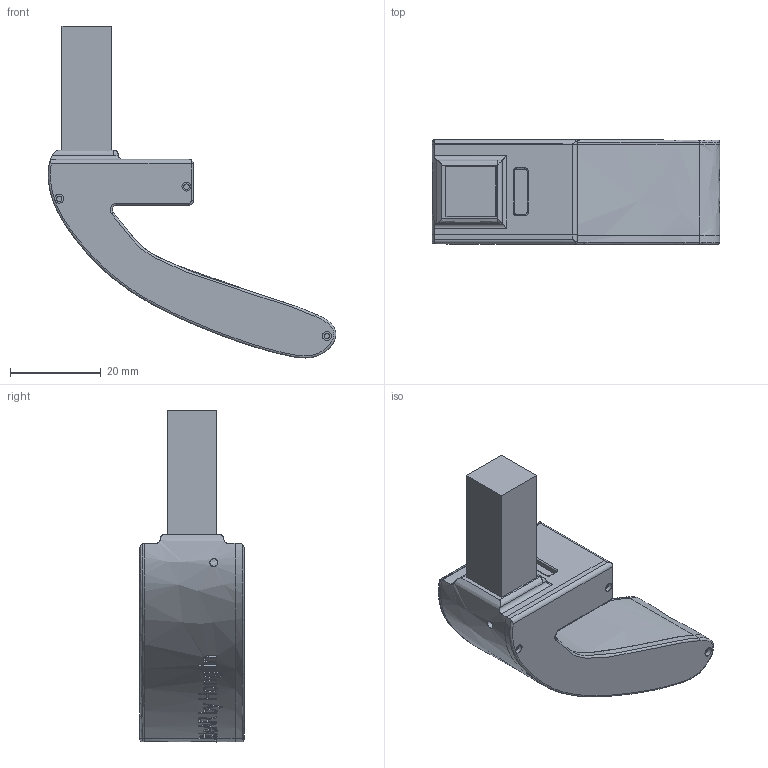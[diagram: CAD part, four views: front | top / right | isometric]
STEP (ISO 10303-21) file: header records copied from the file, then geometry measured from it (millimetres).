
FILE_DESCRIPTION(/* description */ (''),/* implementation_level */ '2;1');
FILE_NAME(/* name */ 'littleAR.step',/* time_stamp */ '2023-04-25T16:18:00+08:00',/* author */ (''),/* organization */ (''),/* preprocessor_version */ 'ST-DEVELOPER v19.2',/* originating_system */ 'Autodesk Translation Framework v12.4.0.73',/* authorisation */ '');
FILE_SCHEMA (('AUTOMOTIVE_DESIGN { 1 0 10303 214 3 1 1 }'));
Products named in the file (25): littleAR; OSAR小 v1; COMPOUND; R11; R0603; R12; R0603_1; COMPOUND (1); CN5; CONN-SMD_30P-P0.35_XKB_X3500FVS-30A-LPV01; COMPOUND (3); L5; L1008; L6; L1008_1; SOLID (1); U7; SOT-23-3_L2.9-W1.6-P1.90-LS2.8-BR-CW; COMPOUND (4); U8; WSON-12_L3.0-W3.0-P0.45-BL-EP; COMPOUND (5); U2; WIFI-SMD_ESP32-WROOM-32E; COMPOUND (6)
Assembly tree (26 placements, depth 5):
  littleAR
    OSAR小 v1
      COMPOUND
      R11
        R0603
          COMPOUND (1)
      R12
        R0603_1
          COMPOUND (1)
      CN5
        CONN-SMD_30P-P0.35_XKB_X3500FVS-30A-LPV01
          COMPOUND (3)
      L5
        L1008
          SOLID (1)
      L6
        L1008_1
          SOLID (1)
      U7
        SOT-23-3_L2.9-W1.6-P1.90-LS2.8-BR-CW
          COMPOUND (4)
      U8
        WSON-12_L3.0-W3.0-P0.45-BL-EP
          COMPOUND (5)
      U2
        WIFI-SMD_ESP32-WROOM-32E
          COMPOUND (6)
Bounding box: 63.48 x 23 x 73.32 mm (x, y, z)
Volume: 18623.7 mm3; surface area: 21127.7 mm2
Topology: 116 solids, 116 shells, 5568 faces, 15277 edges, 10058 vertices
Faces by surface type: plane 3748, bspline 1213, cylinder 533, sphere 44, torus 30
Full cylindrical faces by diameter (mm): 0.2 x1, 0.25 x1, 1.02 x5, 1.2 x5, 1.5 x3, 1.75 x1, 2 x3
Entity records: 177198 total; most frequent: CARTESIAN_POINT 54643, ORIENTED_EDGE 27368, DIRECTION 21610, EDGE_CURVE 13684, LINE 10444, VECTOR 10444, VERTEX_POINT 9032, AXIS2_PLACEMENT_3D 5583
